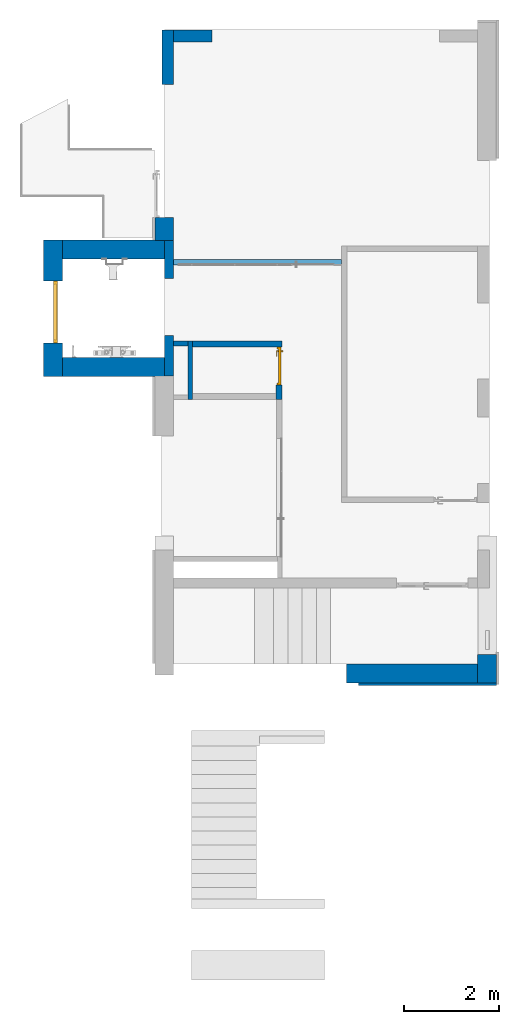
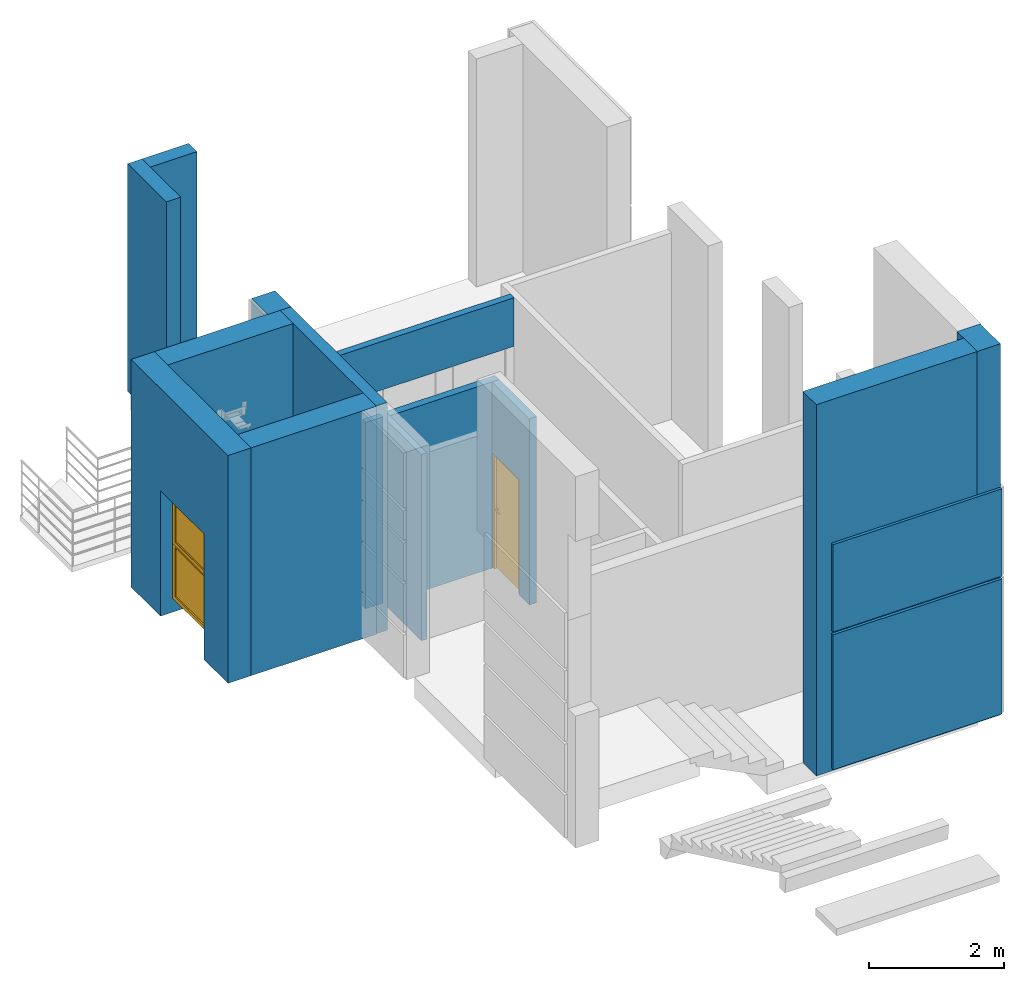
# One storey, part 3 of 15: 15 walls, 2 windows, 1 door, 6 openings.
"""IFC2X3 building model written with IfcOpenShell, lengths in millimetres."""

from ifc_helpers import new_model, entity, si_unit, converted_unit, derived_unit, direction, frame, frame_2d, origin, origin_2d_with_axis, place, context, subcontext, project, spatial, polyline, rectangle, extrude, clip, bounded_halfspace, faceted_brep, source, transform, mapped, material, material_list, layer, layer_set, layer_usage, type_object, type_shapes, element, fill, save


model = new_model("IFC2X3")

# Units and contexts
model_context = context("Model", 3, precision=0.01, world=origin(), true_north=direction((6.12303176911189e-17, 1.0)))
body_context = subcontext(model_context, "Body", "Model", "MODEL_VIEW")
ifc_project = project(units=[si_unit("LENGTHUNIT", "METRE", prefix="MILLI"), si_unit("AREAUNIT", "SQUARE_METRE"), si_unit("VOLUMEUNIT", "CUBIC_METRE"), converted_unit("PLANEANGLEUNIT", "DEGREE", entity("IfcRatioMeasure", 0.0174532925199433), si_unit("PLANEANGLEUNIT", "RADIAN"), dimensions=[0, 0, 0, 0, 0, 0, 0]), si_unit("MASSUNIT", "GRAM", prefix="KILO"), derived_unit("MASSDENSITYUNIT", [(si_unit("MASSUNIT", "GRAM", prefix="KILO"), 1), (si_unit("LENGTHUNIT", "METRE"), -3)]), si_unit("TIMEUNIT", "SECOND"), si_unit("FREQUENCYUNIT", "HERTZ"), si_unit("THERMODYNAMICTEMPERATUREUNIT", "DEGREE_CELSIUS"), derived_unit("THERMALTRANSMITTANCEUNIT", [(si_unit("MASSUNIT", "GRAM", prefix="KILO"), 1), (si_unit("THERMODYNAMICTEMPERATUREUNIT", "KELVIN"), -1), (si_unit("TIMEUNIT", "SECOND"), -3)]), derived_unit("VOLUMETRICFLOWRATEUNIT", [(si_unit("LENGTHUNIT", "METRE"), 3), (si_unit("TIMEUNIT", "SECOND"), -1)]), si_unit("ELECTRICCURRENTUNIT", "AMPERE"), si_unit("ELECTRICVOLTAGEUNIT", "VOLT"), si_unit("POWERUNIT", "WATT"), si_unit("FORCEUNIT", "NEWTON", prefix="KILO"), si_unit("ILLUMINANCEUNIT", "LUX"), si_unit("LUMINOUSFLUXUNIT", "LUMEN"), si_unit("LUMINOUSINTENSITYUNIT", "CANDELA"), derived_unit("USERDEFINED", [(si_unit("MASSUNIT", "GRAM", prefix="KILO"), -1), (si_unit("LENGTHUNIT", "METRE"), -2), (si_unit("TIMEUNIT", "SECOND"), 3), (si_unit("LUMINOUSFLUXUNIT", "LUMEN"), 1)]), derived_unit("LINEARVELOCITYUNIT", [(si_unit("LENGTHUNIT", "METRE"), 1), (si_unit("TIMEUNIT", "SECOND"), -1)]), si_unit("PRESSUREUNIT", "PASCAL"), derived_unit("USERDEFINED", [(si_unit("LENGTHUNIT", "METRE"), -2), (si_unit("MASSUNIT", "GRAM", prefix="KILO"), 1), (si_unit("TIMEUNIT", "SECOND"), -2)])], contexts=[model_context])

# Site, building, storey
site_placement = place(None, frame((-151.875543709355, 2715.0, 0.0)))
site = spatial("IfcSite", under=ifc_project, at=site_placement, Name="Surface", CompositionType="ELEMENT")
building_placement = place(site_placement, origin())
building = spatial("IfcBuilding", under=site, at=building_placement, CompositionType="ELEMENT")
storey_placement = place(building_placement, frame((0.0, 0.0, 7670.0)))
storey = spatial("IfcBuildingStorey", under=building, at=storey_placement, Name="uus 3 korrus", CompositionType="ELEMENT", Elevation=7670.00000000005)

# Walls
ifc_material_1 = material(Name="__Kips GN13_tava")
ifc_layer_1 = layer(ifc_material_1, 12.5)
ifc_layer_2 = layer(ifc_material_1, 12.5)
ifc_material_2 = material(Name="__Soojustus EPS")
ifc_layer_3 = layer(ifc_material_2, 66.0)
ifc_layer_4 = layer(ifc_material_1, 12.5)
ifc_layer_5 = layer(ifc_material_1, 12.5)
ifc_layer_set_1 = layer_set([ifc_layer_1, ifc_layer_2, ifc_layer_3, ifc_layer_4, ifc_layer_5], Name="Basic Wall:SS-3_Kipssein tava ruumide vahel")
ifc_layer_usage_1 = layer_usage(ifc_layer_set_1, "AXIS2", "NEGATIVE", 58.0)
wall_type_1 = type_object("IfcWallType", Name="Basic Wall:SS-3_Kipssein tava ruumide vahel", PredefinedType="STANDARD", material=ifc_layer_set_1)
wall_1_placement = place(storey_placement, frame((32001.6162682, 21667.7725567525, 2500.0)))
element("IfcWallStandardCase", 1, at=wall_1_placement, inside=storey, type_object=wall_type_1, material=ifc_layer_usage_1, Name="Basic Wall:SS-3_Kipssein tava ruumide vahel", ObjectType="Basic Wall:SS-3_Kipssein tava ruumide vahel", context=body_context, shape_type="SweptSolid", body=[
    extrude(rectangle(XDim=3529.99999999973, YDim=116.0, at=frame_2d((1764.99999999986, -6.25277607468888e-13), x_axis=(-1.0, 0.0))), origin(), (0.0, 0.0, 1.0), 879.999999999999),
])
ifc_material_3 = material(Name="__Tuuletõkkeplaat")
ifc_layer_6 = layer(ifc_material_3, 9.0)
ifc_layer_7 = layer(ifc_material_2, 200.0)
ifc_material_4 = material(Name="__Kergblokk")
ifc_layer_8 = layer(ifc_material_4, 190.0)
ifc_layer_set_2 = layer_set([ifc_layer_6, ifc_layer_7, ifc_layer_8], Name="Basic Wall:VS-2.2_Juurdeehituse välissein")
ifc_layer_usage_2 = layer_usage(ifc_layer_set_2, "AXIS2", "POSITIVE", -199.5)
wall_type_2 = type_object("IfcWallType", Name="Basic Wall:VS-2.2_Juurdeehituse välissein", PredefinedType="STANDARD", material=ifc_layer_set_2)
wall_2_placement = place(storey_placement, frame((38596.1162681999, 12811.0, 0.0), z_axis=(0.0, 0.0, 1.0), x_axis=(0.0, 1.0, 0.0)))
element("IfcWallStandardCase", 2, at=wall_2_placement, inside=storey, type_object=wall_type_2, material=ifc_layer_usage_2, Name="Basic Wall:VS-2.2_Juurdeehituse välissein", ObjectType="Basic Wall:VS-2.2_Juurdeehituse välissein", context=body_context, shape_type="SweptSolid", body=[
    extrude(rectangle(XDim=598.955126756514, YDim=398.999999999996, at=frame_2d((299.477563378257, 1.4210854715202e-14), x_axis=(-1.0, 0.0))), origin(), (0.0, 0.0, 1.0), 6735.00000000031),
])
ifc_layer_usage_3 = layer_usage(ifc_layer_set_2, "AXIS2", "POSITIVE", -199.5)
wall_3_placement = place(storey_placement, frame((35636.6162682, 13010.5000000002, 0.0)))
element("IfcWallStandardCase", 3, at=wall_3_placement, inside=storey, type_object=wall_type_2, material=ifc_layer_usage_3, Name="Basic Wall:VS-2.2_Juurdeehituse välissein", ObjectType="Basic Wall:VS-2.2_Juurdeehituse välissein", context=body_context, shape_type="SweptSolid", body=[
    extrude(rectangle(XDim=2759.99999999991, YDim=399.0, at=frame_2d((1379.99999999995, 1.70530256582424e-13), x_axis=(-1.0, 0.0))), origin(), (0.0, 0.0, 1.0), 6735.00000000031),
])
ifc_layer_usage_4 = layer_usage(ifc_layer_set_2, "AXIS2", "NEGATIVE", 199.5)
wall_4_placement = place(storey_placement, frame((31811.6162682, 19460.5000001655, 0.0), z_axis=(0.0, 0.0, 1.0), x_axis=(-1.0, 0.0, 0.0)))
element("IfcWallStandardCase", 4, at=wall_4_placement, inside=storey, type_object=wall_type_2, material=ifc_layer_usage_4, Name="Basic Wall:VS-2.2_Juurdeehituse välissein", ObjectType="Basic Wall:VS-2.2_Juurdeehituse välissein", context=body_context, shape_type="SweptSolid", body=[
    extrude(rectangle(XDim=2149.99850106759, YDim=399.0, at=frame_2d((1074.99925053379, -1.4210854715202e-13), x_axis=(-1.0, 0.0))), origin(), (0.0, 0.0, 1.0), 4135.00000000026),
])

# Wall, openings, windows
ifc_layer_usage_5 = layer_usage(ifc_layer_set_2, "AXIS2", "NEGATIVE", 199.5)
wall_5_placement = place(storey_placement, frame((29462.1177671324, 19261.0, 0.0), z_axis=(0.0, 0.0, 1.0), x_axis=(0.0, 1.0, 0.0)))
wall_5 = element("IfcWallStandardCase", 5, at=wall_5_placement, inside=storey, type_object=wall_type_2, material=ifc_layer_usage_5, Name="Basic Wall:VS-2.2_Juurdeehituse välissein", ObjectType="Basic Wall:VS-2.2_Juurdeehituse välissein", context=body_context, shape_type="SweptSolid", body=[
    extrude(rectangle(XDim=2878.0, YDim=398.999999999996, at=frame_2d((1439.0, 6.11066752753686e-13), x_axis=(-1.0, 0.0))), origin(), (0.0, 0.0, 1.0), 4135.00000000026),
])
opening_1_placement = place(wall_5_placement, origin())
element("IfcOpeningElement", 6, at=opening_1_placement, cuts=wall_5, Name="Basic Wall:VS-2.2_Juurdeehituse välissein", ObjectType="Opening", context=body_context, shape_type="SweptSolid", body=[
    extrude(rectangle(XDim=1030.0, YDim=1300.0, at=frame_2d((5.6843418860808e-13, 0.0), x_axis=(1.0, 0.0))), frame((1359.0, -1723.5, -259.999899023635), z_axis=(0.0, 1.0, 0.0), x_axis=(0.0, 0.0, 1.0)), (0.0, 0.0, 1.0), 3048.0),
])
opening_2_placement = place(wall_5_placement, frame((709.0, -199.500000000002, 1250.00007212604)))
opening_2 = element("IfcOpeningElement", 7, at=opening_2_placement, cuts=wall_5, Name="lifti aken:liftiaken 2:1", ObjectType="Opening", context=body_context, shape_type="SweptSolid", body=[
    extrude(rectangle(XDim=1030.0, YDim=1300.0, at=frame_2d((514.999999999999, 650.0), x_axis=(1.0, 0.0))), frame((0.0, 0.0, 0.0), z_axis=(0.0, 1.0, 0.0), x_axis=(0.0, 0.0, 1.0)), (0.0, 0.0, 1.0), 399.0),
])
opening_3_placement = place(wall_5_placement, frame((709.0, -199.500000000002, 255.000100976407)))
opening_3 = element("IfcOpeningElement", 8, at=opening_3_placement, cuts=wall_5, Name="lifti aken:liftiaken 2:1", ObjectType="Opening", context=body_context, shape_type="SweptSolid", body=[
    extrude(rectangle(XDim=1030.0, YDim=1300.0, at=frame_2d((514.999999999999, 650.0), x_axis=(1.0, 0.0))), frame((0.0, 0.0, 0.0), z_axis=(0.0, 1.0, 0.0), x_axis=(0.0, 0.0, 1.0)), (0.0, 0.0, 1.0), 399.0),
])
ifc_material_5 = material(Name="Glass - Oknoplast - Glass")
ifc_material_6 = material(Name="Steel/Aluminium")
ifc_material_list_1 = material_list([ifc_material_5, ifc_material_6])
ifc_material_list_2 = material_list([ifc_material_5, ifc_material_6])
window_style = type_object("IfcWindowStyle", Name="liftiaken 2", ConstructionType="NOTDEFINED", OperationType="NOTDEFINED", ParameterTakesPrecedence=False, Sizeable=False, material=ifc_material_list_2)
shared_shape_1 = source(origin(), body_context, "Body", "Brep", [
    faceted_brep([(58.0, 130.0, 58.0), (1242.0, 130.0, 58.0), (1242.0, 127.0, 58.0), (58.0, 127.0, 58.0), (58.0, 130.0, 972.0), (1242.0, 130.0, 972.0), (1242.0, 127.0, 972.0), (58.0, 127.0, 972.0)], [[[0, 1, 2, 3]], [[4, 5, 1, 0]], [[5, 6, 2, 1]], [[6, 7, 3, 2]], [[7, 4, 0, 3]], [[4, 7, 6, 5]]]),
    faceted_brep([(58.0, 171.0, 972.0), (1242.0, 171.0, 972.0), (1242.0, 171.0, 58.0), (58.0, 171.0, 58.0), (1242.0, 167.0, 972.0), (1242.0, 167.0, 58.0), (58.0, 167.0, 972.0), (58.0, 167.0, 58.0)], [[[0, 1, 2, 3]], [[1, 4, 5, 2]], [[4, 6, 7, 5]], [[6, 0, 3, 7]], [[0, 6, 4, 1]], [[3, 2, 5, 7]]]),
    faceted_brep([(58.0, 149.0, 972.0), (1242.0, 149.0, 972.0), (1242.0, 149.0, 58.0), (58.0, 149.0, 58.0), (1242.0, 146.0, 972.0), (1242.0, 146.0, 58.0), (58.0, 146.0, 972.0), (58.0, 146.0, 58.0)], [[[0, 1, 2, 3]], [[1, 4, 5, 2]], [[4, 6, 7, 5]], [[6, 0, 3, 7]], [[0, 6, 4, 1]], [[3, 2, 5, 7]]]),
    faceted_brep([(0.0, 189.999993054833, 1030.0), (0.0, 107.999987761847, 1030.0), (1300.0, 107.999987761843, 1030.0), (1300.0, 189.999993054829, 1030.0), (58.0, 127.0, 972.0), (58.0, 170.999989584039, 972.0), (1242.0, 170.999989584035, 972.0), (1242.0, 127.0, 972.0), (1300.0, 107.999987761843, 0.0), (1300.0, 189.999993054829, 0.0), (1242.0, 170.999989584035, 58.0), (1242.0, 127.0, 58.0), (0.0, 107.999987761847, 0.0), (0.0, 189.999993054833, 0.0), (58.0, 170.999989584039, 58.0), (58.0, 127.0, 58.0), (65.8684211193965, 189.999993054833, 65.8684211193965), (1234.1315788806, 189.999993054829, 65.8684211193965), (65.8684211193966, 189.999993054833, 964.131578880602), (1234.1315788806, 189.999993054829, 964.131578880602), (1227.0, 170.999989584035, 73.0), (73.0, 170.999989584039, 73.0), (1227.0, 170.999989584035, 957.0), (73.0, 170.999989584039, 957.0), (67.8684194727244, 189.46408449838, 962.131580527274), (1231.30315412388, 188.828410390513, 961.303154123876), (1230.26787883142, 187.03526076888, 960.267878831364), (69.7321211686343, 187.035260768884, 960.267878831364), (73.0, 174.839370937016, 957.0), (1227.0, 174.839370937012, 957.0), (73.0, 123.140867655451, 957.0), (73.0, 127.0, 957.0), (1227.0, 127.0, 957.0), (1227.0, 123.140867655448, 957.0), (1231.30315412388, 188.828410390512, 68.6968458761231), (1230.26787883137, 187.03526076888, 69.7321211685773), (1227.0, 174.839370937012, 73.0), (1227.0, 127.0, 73.0), (1227.0, 123.140867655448, 73.0), (68.696845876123, 188.828410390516, 68.6968458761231), (69.7321211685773, 187.035260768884, 69.7321211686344), (73.0, 174.839370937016, 73.0), (73.0, 127.0, 73.0), (73.0, 123.140867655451, 73.0), (67.8172078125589, 110.484175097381, 962.182792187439), (1232.18279218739, 110.484175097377, 962.182792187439), (66.7207028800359, 108.964666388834, 963.279297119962), (1234.06272749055, 108.438903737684, 964.062727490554), (1235.8844271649, 107.999995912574, 965.884427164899), (64.1155728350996, 107.999995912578, 965.884427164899), (1232.18279218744, 110.484175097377, 67.8172078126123), (1234.06272749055, 108.438903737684, 65.9372725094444), (1235.8844271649, 107.999995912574, 64.1155728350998), (67.8172078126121, 110.484175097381, 67.8172078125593), (65.9372725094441, 108.438903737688, 65.9372725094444), (64.1155728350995, 107.999995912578, 64.1155728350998)], [[[0, 1, 2, 3]], [[4, 5, 6, 7]], [[3, 2, 8, 9]], [[7, 6, 10, 11]], [[9, 8, 12, 13]], [[11, 10, 14, 15]], [[13, 12, 1, 0]], [[13, 16, 17]], [[16, 13, 18]], [[17, 9, 13]], [[0, 18, 13]], [[18, 0, 19]], [[3, 19, 0]], [[19, 3, 9]], [[9, 17, 19]], [[10, 20, 21]], [[20, 10, 22]], [[21, 14, 10]], [[6, 22, 10]], [[22, 6, 23]], [[5, 23, 6]], [[23, 5, 14]], [[14, 21, 23]], [[15, 14, 5, 4]], [[18, 19, 24]], [[24, 19, 25]], [[25, 26, 27]], [[25, 27, 24]], [[28, 27, 26, 29]], [[23, 28, 29, 22]], [[30, 31, 32, 33]], [[19, 17, 34, 25]], [[34, 35, 26, 25]], [[29, 26, 35, 36]], [[22, 29, 36, 20]], [[33, 32, 37, 38]], [[17, 16, 39, 34]], [[39, 40, 35, 34]], [[36, 35, 40, 41]], [[20, 36, 41, 21]], [[38, 37, 42, 43]], [[16, 18, 24]], [[16, 24, 39]], [[39, 27, 40]], [[27, 39, 24]], [[41, 40, 27, 28]], [[21, 41, 28, 23]], [[43, 42, 31, 30]], [[44, 30, 33, 45]], [[44, 45, 46]], [[46, 45, 47]], [[47, 48, 49]], [[47, 49, 46]], [[45, 33, 38, 50]], [[45, 50, 51, 47]], [[51, 52, 48, 47]], [[50, 38, 43, 53]], [[50, 53, 54, 51]], [[54, 55, 52, 51]], [[15, 42, 37]], [[42, 15, 31]], [[37, 11, 15]], [[4, 31, 15]], [[31, 4, 32]], [[7, 32, 4]], [[32, 7, 11]], [[11, 37, 32]], [[53, 43, 30, 44]], [[53, 44, 46]], [[53, 46, 54]], [[54, 49, 55]], [[49, 54, 46]], [[8, 52, 55, 12]], [[52, 8, 2, 48]], [[12, 55, 49, 1]], [[48, 2, 1, 49]]]),
])
type_shapes(window_style, [shared_shape_1])
window_1_placement = place(opening_2_placement, origin())
window_1 = element("IfcWindow", 9, at=window_1_placement, inside=storey, type_object=window_style, material=ifc_material_list_1, Name="lifti aken:liftiaken 2", ObjectType="liftiaken 2", OverallHeight=1030.0, OverallWidth=1300.0, context=body_context, shape_type="MappedRepresentation", body=[
    mapped(shared_shape_1, transform((0.0, 0.0, 0.0), scale=1.0)),
])
fill(opening_2, window_1)
ifc_material_list_3 = material_list([ifc_material_5, ifc_material_6])
window_2_placement = place(opening_3_placement, origin())
window_2 = element("IfcWindow", 10, at=window_2_placement, inside=storey, type_object=window_style, material=ifc_material_list_3, Name="lifti aken:liftiaken 2", ObjectType="liftiaken 2", OverallHeight=1030.0, OverallWidth=1300.0, context=body_context, shape_type="MappedRepresentation", body=[
    mapped(shared_shape_1, transform((0.0, 0.0, 0.0), scale=1.0)),
])
fill(opening_3, window_2)

# Walls
ifc_layer_usage_6 = layer_usage(ifc_layer_set_2, "AXIS2", "POSITIVE", -199.5)
wall_6_placement = place(storey_placement, frame((31811.6162682, 21939.5000001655, 0.0), z_axis=(0.0, 0.0, 1.0), x_axis=(-1.0, 0.0, 0.0)))
element("IfcWallStandardCase", 11, at=wall_6_placement, inside=storey, type_object=wall_type_2, material=ifc_layer_usage_6, Name="Basic Wall:VS-2.2_Juurdeehituse välissein", ObjectType="Basic Wall:VS-2.2_Juurdeehituse välissein", context=body_context, shape_type="SweptSolid", body=[
    extrude(rectangle(XDim=2149.99850106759, YDim=398.999999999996, at=frame_2d((1074.99925053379, 1.27897692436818e-13), x_axis=(-1.0, 0.0))), origin(), (0.0, 0.0, 1.0), 4135.00000000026),
])
ifc_layer_usage_7 = layer_usage(ifc_layer_set_2, "AXIS2", "NEGATIVE", 199.5)
wall_7_placement = place(storey_placement, frame((31802.1162682, 22130.0, 0.0), z_axis=(0.0, 0.0, 1.0), x_axis=(0.0, 1.0, 0.0)))
element("IfcWallStandardCase", 12, at=wall_7_placement, inside=storey, type_object=wall_type_2, material=ifc_layer_usage_7, Name="Basic Wall:VS-2.2_Juurdeehituse välissein", ObjectType="Basic Wall:VS-2.2_Juurdeehituse välissein", context=body_context, shape_type="SweptSolid", body=[
    extrude(rectangle(XDim=479.998837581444, YDim=398.999999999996, at=frame_2d((239.999418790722, 0.0), x_axis=(-1.0, 0.0))), origin(), (0.0, 0.0, 1.0), 4135.0),
])

# Wall, opening
ifc_layer_9 = layer(ifc_material_1, 12.5)
ifc_layer_10 = layer(ifc_material_1, 12.5)
ifc_layer_11 = layer(ifc_material_2, 66.0)
ifc_material_7 = material(Name="__Kips GKB_niiskuskindel")
ifc_layer_12 = layer(ifc_material_7, 12.5)
ifc_layer_13 = layer(ifc_material_7, 12.5)
ifc_material_8 = material(Name="Keraamiline_plaat")
ifc_layer_14 = layer(ifc_material_8, 10.0)
ifc_layer_set_3 = layer_set([ifc_layer_9, ifc_layer_10, ifc_layer_11, ifc_layer_12, ifc_layer_13, ifc_layer_14], Name="Basic Wall:SS-4_Kipssein tava ja niiske ruumi vahel")
ifc_layer_usage_8 = layer_usage(ifc_layer_set_3, "AXIS2", "NEGATIVE", 63.0)
wall_type_3 = type_object("IfcWallType", Name="Basic Wall:SS-4_Kipssein tava ja niiske ruumi vahel", PredefinedType="STANDARD", material=ifc_layer_set_3)
wall_8_placement = place(storey_placement, frame((32401.6162682, 19946.9542610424, 0.0)))
wall_8 = element("IfcWallStandardCase", 13, at=wall_8_placement, inside=storey, type_object=wall_type_3, material=ifc_layer_usage_8, Name="Basic Wall:SS-4_Kipssein tava ja niiske ruumi vahel", ObjectType="Basic Wall:SS-4_Kipssein tava ja niiske ruumi vahel", context=body_context, shape_type="Clipping", body=[
    clip(extrude(rectangle(XDim=1879.48582333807, YDim=125.999999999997, at=frame_2d((939.742911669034, -1.20436993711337e-12), x_axis=(-1.0, 0.0))), origin(), (0.0, 0.0, 1.0), 3380.00000000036), bounded_halfspace(frame((0.0, -63.0, 3380.0)), False, frame((0.0, -63.0, 3380.0)), polyline([(0.0, 0.0), (1753.48582333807, 0.0), (1879.48582333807, 0.0), (1879.48582333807, 126.0), (0.0, 126.0), (0.0, 0.0)]))),
])
opening_4_placement = place(wall_8_placement, origin())
element("IfcOpeningElement", 14, at=opening_4_placement, cuts=wall_8, Name="Basic Wall:SS-4_Kipssein tava ja niiske ruumi vahel", ObjectType="Opening", context=body_context, shape_type="SweptSolid", body=[
    extrude(rectangle(XDim=2099.99999999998, YDim=126.000000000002, at=frame_2d((-2.16715534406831e-12, 0.0), x_axis=(0.0, 1.0))), frame((1816.48582333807, -863.028377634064, 1050.0), z_axis=(0.0, 1.0, 0.0), x_axis=(1.0, 0.0, 0.0)), (0.0, 0.0, 1.0), 799.999999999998),
])

# Wall, opening, door
ifc_layer_usage_9 = layer_usage(ifc_layer_set_3, "AXIS2", "NEGATIVE", 63.0)
wall_9_placement = place(storey_placement, frame((34218.102091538, 19883.9542610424, 0.0), z_axis=(0.0, 0.0, 1.0), x_axis=(0.0, -1.0, 0.0)))
wall_9 = element("IfcWallStandardCase", 15, at=wall_9_placement, inside=storey, type_object=wall_type_3, material=ifc_layer_usage_9, Name="Basic Wall:SS-4_Kipssein tava ja niiske ruumi vahel", ObjectType="Basic Wall:SS-4_Kipssein tava ja niiske ruumi vahel", context=body_context, shape_type="Clipping", body=[
    clip(extrude(rectangle(XDim=1105.98325796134, YDim=125.999999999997, at=frame_2d((552.991628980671, -8.10018718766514e-13), x_axis=(-1.0, 0.0))), origin(), (0.0, 0.0, 1.0), 3380.00000000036), bounded_halfspace(frame((0.0, -63.0, 3380.0), z_axis=(0.0, 0.0, 1.0), x_axis=(0.0, 1.0, 0.0)), False, frame((0.0, -63.0, 3380.0)), polyline([(0.0, 0.0), (979.983257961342, 0.0), (1105.98325796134, 0.0), (1105.98325796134, 10.2175582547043), (1105.98325796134, 126.0), (0.0, 126.0), (0.0, 0.0)]))),
])
opening_5_placement = place(wall_9_placement, frame((0.0283776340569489, -63.0, 0.0)))
opening_5 = element("IfcOpeningElement", 16, at=opening_5_placement, cuts=wall_9, Name="Ühepoolsed:SU-05:1", ObjectType="Opening", context=body_context, shape_type="SweptSolid", body=[
    extrude(rectangle(XDim=2099.99999999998, YDim=800.0, at=frame_2d((1049.99999999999, 400.0), x_axis=(1.0, 0.0))), frame((0.0, 0.0, 0.0), z_axis=(0.0, 1.0, 0.0), x_axis=(0.0, 0.0, 1.0)), (0.0, 0.0, 1.0), 126.0),
])
ifc_material_9 = material(Name="_Alumiiniumprofiil - must")
ifc_material_10 = material(Name="__Uks_hele tamm")
ifc_material_list_4 = material_list([ifc_material_9, ifc_material_10])
ifc_material_list_5 = material_list([ifc_material_9, ifc_material_10])
door_style = type_object("IfcDoorStyle", Name="SU-05", ConstructionType="NOTDEFINED", OperationType="FOLDING_TO_RIGHT", ParameterTakesPrecedence=False, Sizeable=False, material=ifc_material_list_5)
shared_shape_2 = source(origin(), body_context, "Body", "Brep", [
    faceted_brep([(100.0, 16.0, 1112.5), (100.0, 54.0, 1112.5), (75.0, 54.0, 1112.5), (75.0, 11.0, 1112.5), (195.0, 11.0, 1112.5), (195.0, 16.0, 1112.5), (100.0, 16.0, 1087.5), (195.0, 16.0, 1087.5), (195.0, 11.0, 1087.5), (75.0, 11.0, 1087.5), (75.0, 54.0, 1087.5), (100.0, 54.0, 1087.5)], [[[0, 1, 2, 3, 4, 5]], [[6, 7, 8, 9, 10, 11]], [[1, 0, 6, 11]], [[2, 1, 11, 10]], [[3, 2, 10, 9]], [[4, 3, 9, 8]], [[5, 4, 8, 7]], [[0, 5, 7, 6]]]),
    faceted_brep([(112.5, 54.0, 1137.5), (112.5, 56.0, 1137.5), (62.5000000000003, 56.0, 1137.5), (62.5000000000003, 54.0, 1137.5), (112.5, 54.0, 1017.5), (62.5000000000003, 54.0, 1017.5), (62.5000000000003, 56.0, 1017.5), (112.5, 56.0, 1017.5)], [[[0, 1, 2, 3]], [[4, 5, 6, 7]], [[1, 0, 4, 7]], [[2, 1, 7, 6]], [[3, 2, 6, 5]], [[0, 3, 5, 4]]]),
    faceted_brep([(100.0, 146.0, 1112.5), (195.0, 146.0, 1112.5), (195.0, 151.0, 1112.5), (75.0, 151.0, 1112.5), (75.0, 108.0, 1112.5), (100.0, 108.0, 1112.5), (100.0, 146.0, 1087.5), (100.0, 108.0, 1087.5), (75.0, 108.0, 1087.5), (75.0, 151.0, 1087.5), (195.0, 151.0, 1087.5), (195.0, 146.0, 1087.5)], [[[0, 1, 2, 3, 4, 5]], [[6, 7, 8, 9, 10, 11]], [[5, 7, 6, 0]], [[4, 8, 7, 5]], [[3, 9, 8, 4]], [[2, 10, 9, 3]], [[1, 11, 10, 2]], [[0, 6, 11, 1]]]),
    faceted_brep([(112.5, 108.0, 1137.5), (62.5000000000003, 108.0, 1137.5), (62.5000000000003, 106.0, 1137.5), (112.5, 106.0, 1137.5), (112.5, 108.0, 1017.5), (112.5, 106.0, 1017.5), (62.5000000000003, 106.0, 1017.5), (62.5000000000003, 108.0, 1017.5)], [[[0, 1, 2, 3]], [[4, 5, 6, 7]], [[3, 5, 4, 0]], [[2, 6, 5, 3]], [[1, 7, 6, 2]], [[0, 4, 7, 1]]]),
    faceted_brep([(800.0, 16.0, 0.0), (760.0, 16.0, 0.0), (760.0, 56.0, 0.0), (775.0, 56.0, 0.0), (775.0, 106.0, 0.0), (800.0, 106.0, 0.0), (800.0, 16.0, 2100.0), (0.0, 16.0, 2100.0), (0.0, 16.0, 0.0), (40.0, 16.0, 0.0), (40.0, 16.0, 2060.0), (760.0, 16.0, 2060.0), (760.0, 56.0, 2060.0), (40.0, 56.0, 2060.0), (40.0, 56.0, 0.0), (25.0, 56.0, 0.0), (25.0, 56.0, 2075.0), (775.0, 56.0, 2075.0), (775.0, 106.0, 2075.0), (25.0, 106.0, 2075.0), (25.0, 106.0, 0.0), (0.0, 106.0, 0.0), (0.0, 106.0, 2100.0), (800.0, 106.0, 2100.0)], [[[0, 1, 2, 3, 4, 5]], [[1, 0, 6, 7, 8, 9, 10, 11]], [[2, 1, 11, 12]], [[3, 2, 12, 13, 14, 15, 16, 17]], [[4, 3, 17, 18]], [[5, 4, 18, 19, 20, 21, 22, 23]], [[0, 5, 23, 6]], [[8, 7, 22, 21]], [[9, 8, 21, 20, 15, 14]], [[10, 9, 14, 13]], [[16, 15, 20, 19]], [[11, 10, 13, 12]], [[17, 16, 19, 18]], [[7, 6, 23, 22]]]),
    faceted_brep([(25.0, 56.0, 2075.0), (25.0, 56.0, 20.0), (775.0, 56.0, 20.0), (775.0, 56.0, 2075.0), (25.0, 106.0, 2075.0), (775.0, 106.0, 2075.0), (775.0, 106.0, 20.0), (25.0, 106.0, 20.0)], [[[0, 1, 2, 3]], [[4, 5, 6, 7]], [[1, 0, 4, 7]], [[2, 1, 7, 6]], [[3, 2, 6, 5]], [[0, 3, 5, 4]]]),
])
type_shapes(door_style, [shared_shape_2])
door_placement = place(opening_5_placement, origin())
door = element("IfcDoor", 17, at=door_placement, inside=storey, type_object=door_style, material=ifc_material_list_4, Name="Ühepoolsed:SU-05", ObjectType="SU-05", OverallHeight=2099.99999999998, OverallWidth=800.0, context=body_context, shape_type="MappedRepresentation", body=[
    mapped(shared_shape_2, transform((0.0, 0.0, 0.0), scale=1.0)),
])
fill(opening_5, door)

# Walls
ifc_material_11 = material(Name="__Helehall")
ifc_layer_15 = layer(ifc_material_11, 10.0)
ifc_layer_16 = layer(ifc_material_4, 90.0)
ifc_layer_set_4 = layer_set([ifc_layer_15, ifc_layer_16], Name="Basic Wall:SS-6_Šahti sein EI-60")
ifc_layer_usage_10 = layer_usage(ifc_layer_set_4, "AXIS2", "POSITIVE", -50.0)
wall_type_4 = type_object("IfcWallType", Name="Basic Wall:SS-6_Šahti sein EI-60", PredefinedType="STANDARD", material=ifc_layer_set_4)
wall_10_placement = place(storey_placement, frame((32351.6162682, 18777.971003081, 0.0), z_axis=(0.0, 0.0, 1.0), x_axis=(0.0, 1.0, 0.0)))
element("IfcWallStandardCase", 18, at=wall_10_placement, inside=storey, type_object=wall_type_4, material=ifc_layer_usage_10, Name="Basic Wall:SS-6_Šahti sein EI-60", ObjectType="Basic Wall:SS-6_Šahti sein EI-60", context=body_context, shape_type="SweptSolid", body=[
    extrude(rectangle(XDim=1231.95488032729, YDim=100.000000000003, at=frame_2d((615.977440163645, 0.0), x_axis=(-1.0, 0.0))), origin(), (0.0, 0.0, 1.0), 3380.00000000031),
])
ifc_layer_usage_11 = layer_usage(ifc_layer_set_4, "AXIS2", "POSITIVE", -50.0)
wall_11_placement = place(storey_placement, frame((32301.6162682, 19959.9258834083, 0.0), z_axis=(0.0, 0.0, 1.0), x_axis=(-1.0, 0.0, 0.0)))
element("IfcWallStandardCase", 19, at=wall_11_placement, inside=storey, type_object=wall_type_4, material=ifc_layer_usage_11, Name="Basic Wall:SS-6_Šahti sein EI-60", ObjectType="Basic Wall:SS-6_Šahti sein EI-60", context=body_context, shape_type="SweptSolid", body=[
    extrude(rectangle(XDim=299.999999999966, YDim=100.000000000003, at=frame_2d((149.999999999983, 0.0), x_axis=(-1.0, 0.0))), origin(), (0.0, 0.0, 1.0), 3380.00000000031),
])
ifc_layer_17 = layer(ifc_material_2, 57.0)
ifc_layer_18 = layer(ifc_material_4, 190.0)
ifc_layer_set_5 = layer_set([ifc_layer_17, ifc_layer_18], Name="Basic Wall:VS-2.1_Juurdeehituse välissein 2")
ifc_layer_usage_12 = layer_usage(ifc_layer_set_5, "AXIS2", "POSITIVE", -123.5)
wall_type_5 = type_object("IfcWallType", Name="Basic Wall:VS-2.1_Juurdeehituse välissein 2", PredefinedType="STANDARD", material=ifc_layer_set_5)
wall_12_placement = place(storey_placement, frame((31878.1162682, 26557.0, 0.0), z_axis=(0.0, 0.0, 1.0), x_axis=(0.0, -1.0, 0.0)))
element("IfcWallStandardCase", 20, at=wall_12_placement, inside=storey, type_object=wall_type_5, material=ifc_layer_usage_12, Name="Basic Wall:VS-2.1_Juurdeehituse välissein 2", ObjectType="Basic Wall:VS-2.1_Juurdeehituse välissein 2", context=body_context, shape_type="SweptSolid", body=[
    extrude(rectangle(XDim=1146.74949025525, YDim=246.999999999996, at=frame_2d((573.374745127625, 1.84741111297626e-13), x_axis=(-1.0, 0.0))), origin(), (0.0, 0.0, 1.0), 4135.0),
])
ifc_layer_usage_13 = layer_usage(ifc_layer_set_5, "AXIS2", "POSITIVE", -123.5)
wall_13_placement = place(storey_placement, frame((32802.1162682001, 26433.50002656, 0.0), z_axis=(0.0, 0.0, 1.0), x_axis=(-1.0, 0.0, 0.0)))
element("IfcWallStandardCase", 21, at=wall_13_placement, inside=storey, type_object=wall_type_5, material=ifc_layer_usage_13, Name="Basic Wall:VS-2.1_Juurdeehituse välissein 2", ObjectType="Basic Wall:VS-2.1_Juurdeehituse välissein 2", context=body_context, shape_type="SweptSolid", body=[
    extrude(rectangle(XDim=800.500000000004, YDim=246.999999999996, at=frame_2d((400.250000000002, 1.46371803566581e-12), x_axis=(-1.0, 0.0))), origin(), (0.0, 0.0, 1.0), 4135.0),
])

# Wall, opening
ifc_layer_19 = layer(ifc_material_4, 190.0)
ifc_layer_set_6 = layer_set([ifc_layer_19], Name="Basic Wall:Juurdeehituse välissein_soojustuseta")
ifc_layer_usage_14 = layer_usage(ifc_layer_set_6, "AXIS2", "NEGATIVE", 95.0)
wall_type_6 = type_object("IfcWallType", Name="Basic Wall:Juurdeehituse välissein_soojustuseta", PredefinedType="STANDARD", material=ifc_layer_set_6)
wall_14_placement = place(storey_placement, frame((31906.6162682, 19270.0, 0.0), z_axis=(0.0, 0.0, 1.0), x_axis=(0.0, 1.0, 0.0)))
wall_14 = element("IfcWallStandardCase", 22, at=wall_14_placement, inside=storey, type_object=wall_type_6, material=ifc_layer_usage_14, Name="Basic Wall:Juurdeehituse välissein_soojustuseta", ObjectType="Basic Wall:Juurdeehituse välissein_soojustuseta", context=body_context, shape_type="SweptSolid", body=[
    extrude(rectangle(XDim=2860.0, YDim=190.0, at=frame_2d((1430.0, 0.0), x_axis=(-1.0, 0.0))), origin(), (0.0, 0.0, 1.0), 4135.0),
])
opening_6_placement = place(wall_14_placement, origin())
element("IfcOpeningElement", 23, at=opening_6_placement, cuts=wall_14, Name="Basic Wall:Juurdeehituse välissein_soojustuseta", ObjectType="Opening", context=body_context, shape_type="SweptSolid", body=[
    extrude(rectangle(XDim=2179.99999999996, YDim=1199.99999983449, at=origin_2d_with_axis()), frame((1460.0, -95.0, 1090.0), z_axis=(0.0, 1.0, 0.0), x_axis=(0.0, 0.0, -1.0)), (0.0, 0.0, 1.0), 190.0),
])

# Wall
wall_type_7 = type_object("IfcWallType", Name="fassaad4.2:fassaad4.2", PredefinedType="NOTDEFINED", material=ifc_material_6)
wall_15_placement = place(storey_placement, frame((35895.6162682, 12761.0, 50.0)))
element("IfcWall", 24, at=wall_15_placement, inside=storey, type_object=wall_type_7, material=ifc_material_6, Name="fassaad4.2:fassaad4.2", ObjectType="fassaad4.2:fassaad4.2", context=body_context, shape_type="SweptSolid", body=[
    extrude(rectangle(XDim=49.9999999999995, YDim=2900.0, at=frame_2d((1.08357767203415e-12, 2.1600499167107e-12), x_axis=(1.0, 0.0))), frame((1450.0, 25.0, 2500.0), z_axis=(0.0, 0.0, 1.0), x_axis=(0.0, 1.0, 0.0)), (0.0, 0.0, 1.0), 1584.99999999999),
    extrude(rectangle(XDim=49.9999999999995, YDim=2900.0, at=frame_2d((1.08357767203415e-12, 2.1600499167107e-12), x_axis=(1.0, 0.0))), frame((1450.0, 25.0, 0.0), z_axis=(0.0, 0.0, 1.0), x_axis=(0.0, 1.0, 0.0)), (0.0, 0.0, 1.0), 2450.0),
])

save(model, "model.ifc")
